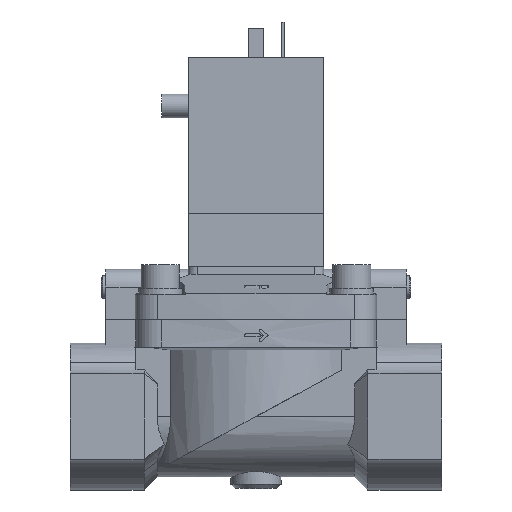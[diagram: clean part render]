
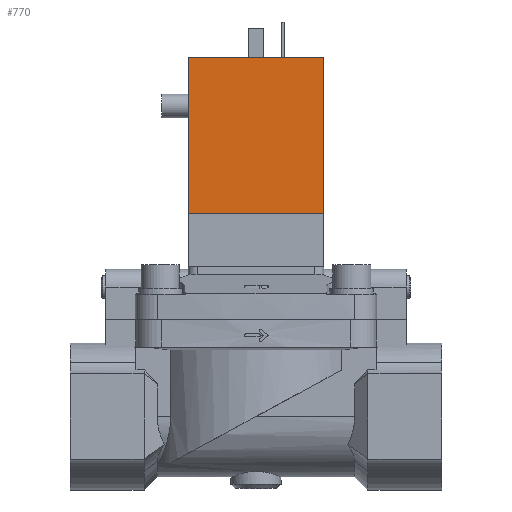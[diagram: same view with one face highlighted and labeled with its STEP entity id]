
A CAD part, top view. The second image highlights one B-rep face of the part: STEP entity #770.
In plain terms, the highlighted planar face has unit normal (0, 0, 1) as drawn and (0, 0, -1) by its records, which use the part's own axes.
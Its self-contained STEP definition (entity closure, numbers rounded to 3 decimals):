
#770 = ADVANCED_FACE( '', ( #1564 ), #1565, .F. );
#1564 = FACE_OUTER_BOUND( '', #2374, .T. );
#1565 = PLANE( '', #2375 );
#2374 = EDGE_LOOP( '', ( #4449, #4450, #4451, #4452 ) );
#2375 = AXIS2_PLACEMENT_3D( '', #4453, #4454, #4455 );
#4449 = ORIENTED_EDGE( '', *, *, #5151, .T. );
#4450 = ORIENTED_EDGE( '', *, *, #5561, .F. );
#4451 = ORIENTED_EDGE( '', *, *, #4935, .F. );
#4452 = ORIENTED_EDGE( '', *, *, #5584, .T. );
#4453 = CARTESIAN_POINT( '', ( 23., 71., -17. ) );
#4454 = DIRECTION( '', ( 0., 0., 1. ) );
#4455 = DIRECTION( '', ( 1., 0., 0. ) );
#4935 = EDGE_CURVE( '', #5957, #5952, #5959, .T. );
#5151 = EDGE_CURVE( '', #6301, #6305, #6307, .T. );
#5561 = EDGE_CURVE( '', #5952, #6305, #6862, .T. );
#5584 = EDGE_CURVE( '', #5957, #6301, #6888, .T. );
#5952 = VERTEX_POINT( '', #7387 );
#5957 = VERTEX_POINT( '', #7394 );
#5959 = LINE( '', #7397, #7398 );
#6301 = VERTEX_POINT( '', #7920 );
#6305 = VERTEX_POINT( '', #7926 );
#6307 = LINE( '', #7929, #7930 );
#6862 = LINE( '', #8871, #8872 );
#6888 = LINE( '', #8906, #8907 );
#7387 = CARTESIAN_POINT( '', ( -23., 71., -17. ) );
#7394 = CARTESIAN_POINT( '', ( 23., 71., -17. ) );
#7397 = CARTESIAN_POINT( '', ( 23., 71., -17. ) );
#7398 = VECTOR( '', #9199, 1000. );
#7920 = CARTESIAN_POINT( '', ( 23., 18., -17. ) );
#7926 = CARTESIAN_POINT( '', ( -23., 18., -17. ) );
#7929 = CARTESIAN_POINT( '', ( 23., 18., -17. ) );
#7930 = VECTOR( '', #9445, 1000. );
#8871 = CARTESIAN_POINT( '', ( -23., 71., -17. ) );
#8872 = VECTOR( '', #9901, 1000. );
#8906 = CARTESIAN_POINT( '', ( 23., 71., -17. ) );
#8907 = VECTOR( '', #9922, 1000. );
#9199 = DIRECTION( '', ( -1., 0., 0. ) );
#9445 = DIRECTION( '', ( -1., 0., 0. ) );
#9901 = DIRECTION( '', ( 0., -1., 0. ) );
#9922 = DIRECTION( '', ( 0., -1., 0. ) );
